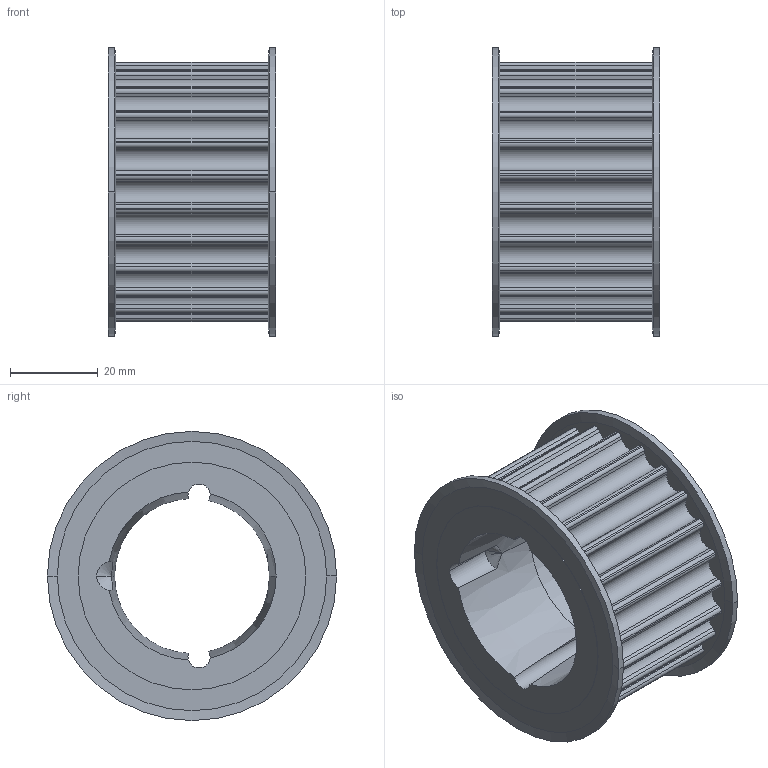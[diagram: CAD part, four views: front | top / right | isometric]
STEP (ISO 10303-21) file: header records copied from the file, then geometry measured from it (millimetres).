
FILE_DESCRIPTION( ( '' ), '1' );
FILE_NAME( 'C:/Users/Stangenbergd/Documents/CAD_Step/1/17477212.stp', '2021-10-19T10:17:55', ( '' ), ( '' ), ' ', ' ', ' ' );
FILE_SCHEMA( ( 'CONFIG_CONTROL_DESIGN' ) );
Length unit declared in the file: millimetre
Products named in the file (1): 1
Bounding box: 38.33 x 66 x 66 mm (x, y, z)
Volume: 47288 mm3; surface area: 21219 mm2
Topology: 1 solids, 1 shells, 188 faces, 535 edges, 351 vertices
Faces by surface type: cylinder 114, plane 58, cone 14, torus 2
Entity records: 6363 total; most frequent: CARTESIAN_POINT 1205, DIRECTION 1153, ORIENTED_EDGE 1066, EDGE_CURVE 533, AXIS2_PLACEMENT_3D 443, VERTEX_POINT 351, LINE 267, VECTOR 267
